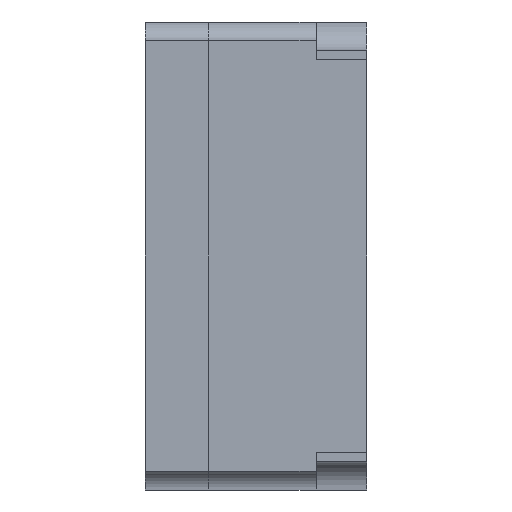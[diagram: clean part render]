
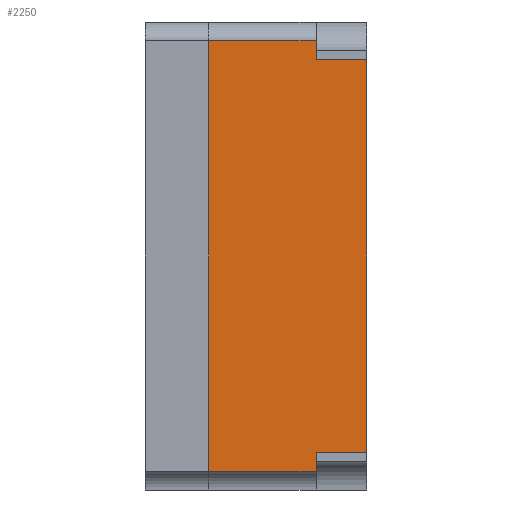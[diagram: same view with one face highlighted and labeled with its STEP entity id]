
A CAD part, left-side view. The second image highlights one B-rep face of the part: STEP entity #2250.
In plain terms, the highlighted planar face has unit normal (-1, 0, 0).
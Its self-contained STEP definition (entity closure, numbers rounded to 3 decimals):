
#65 = VECTOR ( 'NONE', #2351, 1000. ) ;
#159 = ORIENTED_EDGE ( 'NONE', *, *, #1826, .F. ) ;
#194 = CARTESIAN_POINT ( 'NONE',  ( -4., 1.25, 1.7 ) ) ;
#209 = DIRECTION ( 'NONE',  ( -1., 0., 0. ) ) ;
#235 = VECTOR ( 'NONE', #999, 1000. ) ;
#288 = LINE ( 'NONE', #396, #609 ) ;
#292 = CARTESIAN_POINT ( 'NONE',  ( -4., 0., -1.55 ) ) ;
#296 = EDGE_CURVE ( 'NONE', #1210, #468, #1142, .T. ) ;
#323 = ORIENTED_EDGE ( 'NONE', *, *, #2264, .F. ) ;
#345 = CARTESIAN_POINT ( 'NONE',  ( -4., 1.25, -1.7 ) ) ;
#367 = CARTESIAN_POINT ( 'NONE',  ( -4., 1.25, -1.7 ) ) ;
#396 = CARTESIAN_POINT ( 'NONE',  ( -4., 0.4, 1.55 ) ) ;
#468 = VERTEX_POINT ( 'NONE', #1818 ) ;
#480 = ORIENTED_EDGE ( 'NONE', *, *, #1662, .F. ) ;
#520 = LINE ( 'NONE', #2197, #235 ) ;
#522 = ORIENTED_EDGE ( 'NONE', *, *, #1639, .F. ) ;
#609 = VECTOR ( 'NONE', #1366, 1000. ) ;
#779 = AXIS2_PLACEMENT_3D ( 'NONE', #1594, #209, #2397 ) ;
#815 = DIRECTION ( 'NONE',  ( 0., 0., -1. ) ) ;
#820 = VECTOR ( 'NONE', #815, 1000. ) ;
#993 = EDGE_CURVE ( 'NONE', #1159, #1073, #520, .T. ) ;
#997 = LINE ( 'NONE', #2001, #820 ) ;
#998 = PLANE ( 'NONE',  #779 ) ;
#999 = DIRECTION ( 'NONE',  ( 0., -1., 0. ) ) ;
#1010 = CARTESIAN_POINT ( 'NONE',  ( -4., 0., 0. ) ) ;
#1073 = VERTEX_POINT ( 'NONE', #292 ) ;
#1142 = LINE ( 'NONE', #367, #1960 ) ;
#1159 = VERTEX_POINT ( 'NONE', #2501 ) ;
#1210 = VERTEX_POINT ( 'NONE', #345 ) ;
#1321 = EDGE_CURVE ( 'NONE', #2094, #1073, #2013, .T. ) ;
#1366 = DIRECTION ( 'NONE',  ( 0., -1., 0. ) ) ;
#1425 = ORIENTED_EDGE ( 'NONE', *, *, #993, .T. ) ;
#1449 = VERTEX_POINT ( 'NONE', #1630 ) ;
#1489 = CARTESIAN_POINT ( 'NONE',  ( -4., 1.25, 1.7 ) ) ;
#1535 = EDGE_CURVE ( 'NONE', #2178, #1210, #2037, .T. ) ;
#1566 = CARTESIAN_POINT ( 'NONE',  ( -4., 0., 1.55 ) ) ;
#1571 = EDGE_LOOP ( 'NONE', ( #2279, #323, #1425, #2000, #522, #480, #159, #1981 ) ) ;
#1594 = CARTESIAN_POINT ( 'NONE',  ( -4., 1.25, 0. ) ) ;
#1597 = VECTOR ( 'NONE', #1996, 1000. ) ;
#1630 = CARTESIAN_POINT ( 'NONE',  ( -4., 0.4, 1.7 ) ) ;
#1639 = EDGE_CURVE ( 'NONE', #2488, #2094, #288, .T. ) ;
#1662 = EDGE_CURVE ( 'NONE', #1449, #2488, #1810, .T. ) ;
#1721 = FACE_OUTER_BOUND ( 'NONE', #1571, .T. ) ;
#1810 = LINE ( 'NONE', #2315, #1597 ) ;
#1813 = VECTOR ( 'NONE', #2400, 1000. ) ;
#1818 = CARTESIAN_POINT ( 'NONE',  ( -4., 0.4, -1.7 ) ) ;
#1826 = EDGE_CURVE ( 'NONE', #2178, #1449, #2188, .T. ) ;
#1876 = DIRECTION ( 'NONE',  ( 0., -1., 0. ) ) ;
#1894 = CARTESIAN_POINT ( 'NONE',  ( -4., 0.4, 1.55 ) ) ;
#1960 = VECTOR ( 'NONE', #2348, 1000. ) ;
#1981 = ORIENTED_EDGE ( 'NONE', *, *, #1535, .T. ) ;
#1996 = DIRECTION ( 'NONE',  ( 0., 0., -1. ) ) ;
#2000 = ORIENTED_EDGE ( 'NONE', *, *, #1321, .F. ) ;
#2001 = CARTESIAN_POINT ( 'NONE',  ( -4., 0.4, -1.55 ) ) ;
#2013 = LINE ( 'NONE', #1010, #1813 ) ;
#2037 = LINE ( 'NONE', #2508, #65 ) ;
#2094 = VERTEX_POINT ( 'NONE', #1566 ) ;
#2178 = VERTEX_POINT ( 'NONE', #194 ) ;
#2188 = LINE ( 'NONE', #1489, #2378 ) ;
#2197 = CARTESIAN_POINT ( 'NONE',  ( -4., 0.4, -1.55 ) ) ;
#2250 = ADVANCED_FACE ( 'NONE', ( #1721 ), #998, .T. ) ;
#2264 = EDGE_CURVE ( 'NONE', #1159, #468, #997, .T. ) ;
#2279 = ORIENTED_EDGE ( 'NONE', *, *, #296, .T. ) ;
#2315 = CARTESIAN_POINT ( 'NONE',  ( -4., 0.4, 1.625 ) ) ;
#2348 = DIRECTION ( 'NONE',  ( 0., -1., 0. ) ) ;
#2351 = DIRECTION ( 'NONE',  ( 0., 0., -1. ) ) ;
#2378 = VECTOR ( 'NONE', #1876, 1000. ) ;
#2397 = DIRECTION ( 'NONE',  ( 0., 0., 1. ) ) ;
#2400 = DIRECTION ( 'NONE',  ( 0., 0., -1. ) ) ;
#2488 = VERTEX_POINT ( 'NONE', #1894 ) ;
#2501 = CARTESIAN_POINT ( 'NONE',  ( -4., 0.4, -1.55 ) ) ;
#2508 = CARTESIAN_POINT ( 'NONE',  ( -4., 1.25, 0. ) ) ;
